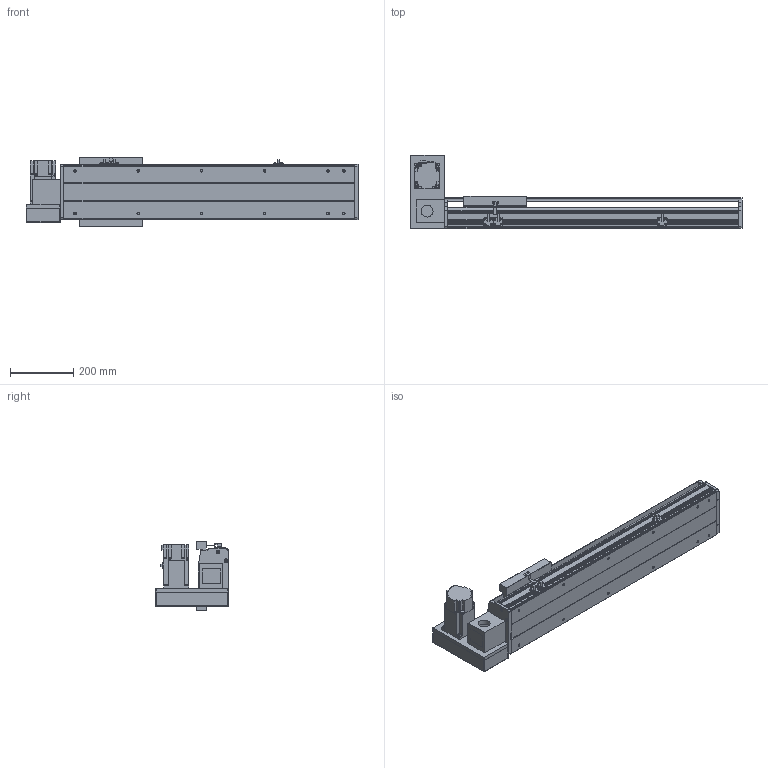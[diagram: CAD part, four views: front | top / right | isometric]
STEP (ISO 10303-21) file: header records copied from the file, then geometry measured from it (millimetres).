
FILE_DESCRIPTION(/* description */ ('STEP AP214'),/* implementation_level */ '2;1');
FILE_NAME(/* name */ 'PBS200-P40-S550-LU-T75-C1-N(0)',/* time_stamp */ '2022-06-11T08:59:05+02:00',/* author */ ('License CC BY-ND 4.0'),/* organization */ ('CADENAS'),/* preprocessor_version */ 'ST-DEVELOPER v18.102',/* originating_system */ 'PARTsolutions',/* authorisation */ ' ');
FILE_SCHEMA (('AUTOMOTIVE_DESIGN {1 0 10303 214 3 1 1}'));
Length unit declared in the file: millimetre
Products named in the file (7): PBS200-P40-S550-LU-T75-C1-N(0); PBS200_sensor; PBS200_plant; PBS200_sliser; T75-p1; PBS200T-LU_motors; PBS200-S550()_body
Assembly tree (8 placements, depth 2):
  PBS200-P40-S550-LU-T75-C1-N(0)
    PBS200_sensor  x3
    PBS200_plant
    PBS200_sliser
    T75-p1
    PBS200T-LU_motors
    PBS200-S550()_body
Bounding box: 1050 x 231 x 221 mm (x, y, z)
Volume: 8426883.4 mm3; surface area: 1376747.5 mm2
Topology: 8 solids, 8 shells, 908 faces, 2354 edges, 1536 vertices
Faces by surface type: plane 570, cylinder 294, cone 44
Full cylindrical faces by diameter (mm): 2.459 x6, 3.242 x4, 4.5 x6, 4.917 x4, 5 x6, 6 x7, 6.6 x8, 6.647 x16, 8 x6, 10 x4, 12 x8, 38 x2, 40 x1, 70 x1
Entity records: 24341 total; most frequent: DIRECTION 4279, CARTESIAN_POINT 4156, ORIENTED_EDGE 3958, EDGE_CURVE 1979, AXIS2_PLACEMENT_3D 1483, VERTEX_POINT 1360, LINE 1313, VECTOR 1313
